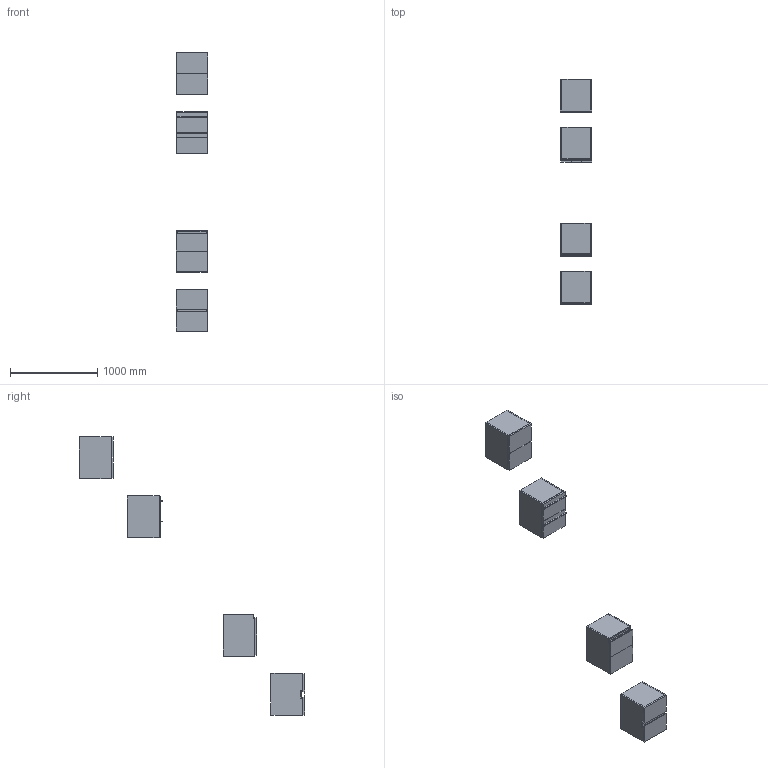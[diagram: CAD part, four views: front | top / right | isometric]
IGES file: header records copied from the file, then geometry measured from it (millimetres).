
Start section: Data from Parasolid IGES Translator 19.0.9, Copyright(c) 2006 Siemens PL M Software. All Rights Reserved.
Global section: file name: noorth-SI-H 48 D 38,8 W 36_8407.igs; native system: By Siemens PLM Incorporated; preprocessor: XPlus GENERIC/IGES 19.0.9; author: Noname; organization: Noname; date: 20200601.102727; units: metre
Bounding box: 363.67 x 2585.1 x 3199.21 mm (x, y, z)
Volume: 52197469.9 mm3; surface area: 7957882.8 mm2
Topology: 33 solids, 33 shells, 318 faces, 700 edges, 428 vertices
Faces by surface type: plane 230, extrusion 36, bspline 32, cylinder 20
